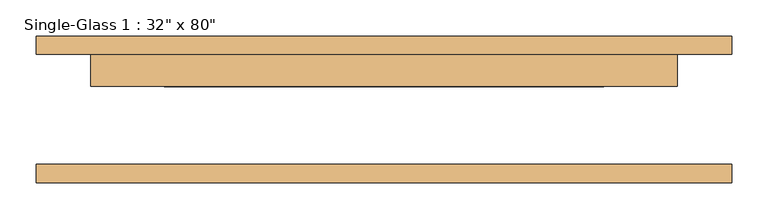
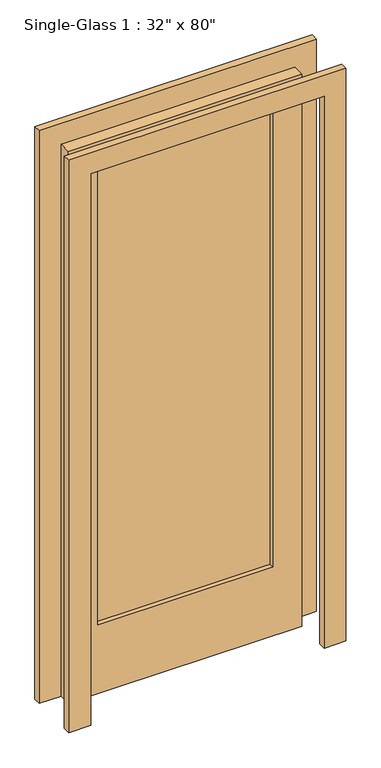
"""IFC4 building model written with IfcOpenShell, lengths in millimetres: door geometry."""

from ifc_helpers import new_model, si_unit, frame, origin, place, context, project, spatial, polyline, outline, extrude, source, transform, mapped, element, save


def door_c1d14122(model_context):
    return source(origin(), model_context, "Body", "SweptSolid", [
        extrude(outline(polyline([(2032.0, 406.4), (0.0, 406.4), (0.0, 482.6), (2108.2, 482.6), (2108.2, -482.6), (0.0, -482.6), (0.0, -406.4), (2032.0, -406.4), (2032.0, 406.4)])), frame((0.0, -101.6, 0.0), z_axis=(0.0, 1.0, 0.0), x_axis=(0.0, 0.0, 1.0)), (0.0, 0.0, 1.0), 25.4),
        extrude(outline(polyline([(2032.0, 406.4), (0.0, 406.4), (0.0, 482.6), (2108.2, 482.6), (2108.2, -482.6), (0.0, -482.6), (0.0, -406.4), (2032.0, -406.4), (2032.0, 406.4)])), frame((0.0, 76.2, 0.0), z_axis=(0.0, 1.0, 0.0), x_axis=(0.0, 0.0, 1.0)), (0.0, 0.0, 1.0), 25.4),
        extrude(outline(polyline([(304.8, 47.625), (-304.8, 47.625), (-304.8, 53.975), (304.8, 53.975), (304.8, 47.625)])), frame((0.0, 0.0, 254.0), z_axis=(0.0, 0.0, 1.0), x_axis=(1.0, 0.0, 0.0)), (0.0, 0.0, 1.0), 1676.4),
        extrude(outline(polyline([(2032.0, 406.4), (2032.0, -406.4), (0.0, -406.4), (0.0, 406.4), (2032.0, 406.4)]), holes=[polyline([(1930.4, -304.8), (1930.4, 304.8), (254.0, 304.8), (254.0, -304.8), (1930.4, -304.8)])]), frame((0.0, 31.75, 0.0), z_axis=(0.0, 1.0, 0.0), x_axis=(0.0, 0.0, 1.0)), (0.0, 0.0, 1.0), 44.45),
    ])


if __name__ == "__main__":
    model = new_model("IFC4")
    model_context = context("Model", 3, world=origin())
    ifc_project = project(units=[si_unit("LENGTHUNIT", "METRE", prefix="MILLI")], contexts=[model_context])
    site = spatial("IfcSite", under=ifc_project)
    building = spatial("IfcBuilding", under=site)
    placement = place(None, origin())
    door_shape = door_c1d14122(model_context)
    element("IfcDoor", 1, ObjectType="Single-Glass 1 : 32\" x 80\"", at=placement, inside=building, context=model_context, shape_type="MappedRepresentation", body=[
        mapped(door_shape, transform((0.0, 0.0, 0.0), x_axis=(1.0, 0.0, 0.0), y_axis=(0.0, 1.0, 0.0), z_axis=(0.0, 0.0, 1.0))),
    ])
    save(model, "model.ifc")
